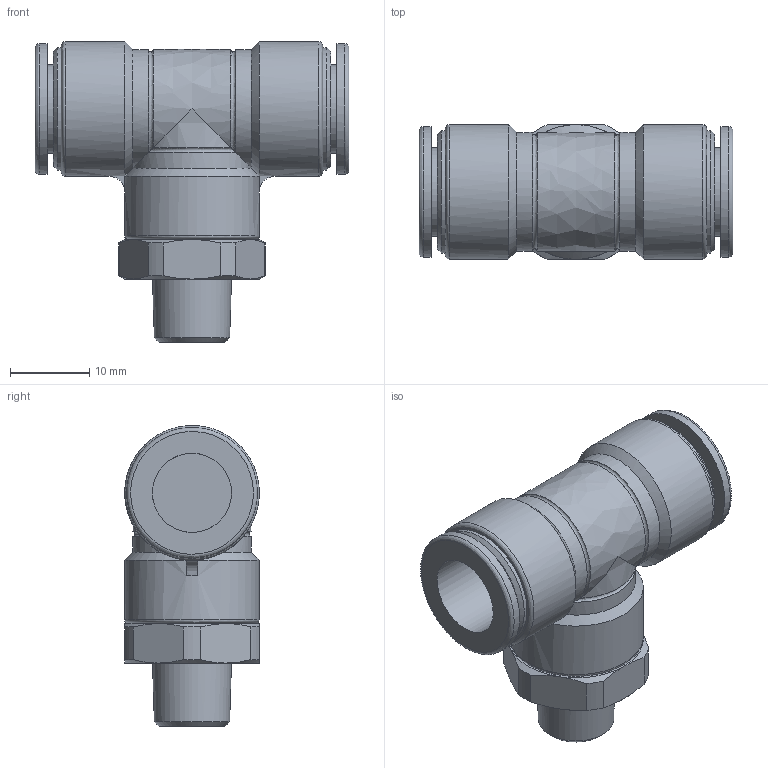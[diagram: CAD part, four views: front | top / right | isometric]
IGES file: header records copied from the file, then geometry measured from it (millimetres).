
Global section: file name: [11] FS10-01MT FS10-01MTW; native system: Autodesk Inventor 2014; preprocessor: unknown; author: kazuhiro.t; date: 20130806.165249; units: millimetre
Bounding box: 39.6 x 17 x 38 mm (x, y, z)
Volume: 9576.4 mm3; surface area: 4998.7 mm2
Topology: 1 solids, 1 shells, 86 faces, 202 edges, 128 vertices
Faces by surface type: bspline 86
